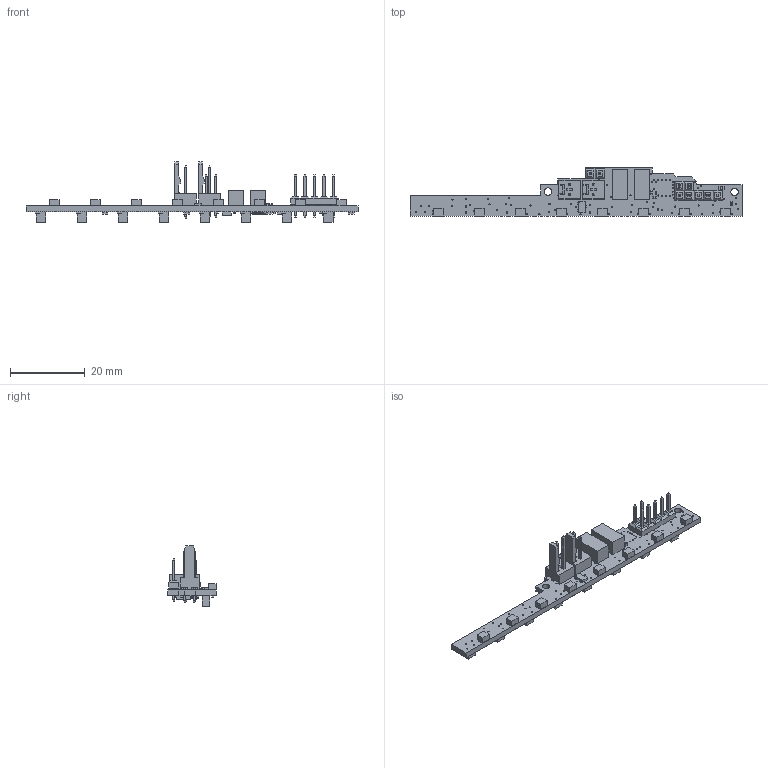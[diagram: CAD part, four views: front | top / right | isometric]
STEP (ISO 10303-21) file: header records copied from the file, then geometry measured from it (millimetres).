
FILE_DESCRIPTION(/* description */ (''),/* implementation_level */ '2;1');
FILE_NAME(/* name */ 'C:/Users/priba/Downloads/mrm-ref-can8.step',/* time_stamp */ '2020-09-13T10:41:57+02:00',/* author */ (''),/* organization */ (''),/* preprocessor_version */ 'ST-DEVELOPER v18.1',/* originating_system */ 'Autodesk Translation Framework v9.3.0.1241',/* authorisation */ '');
FILE_SCHEMA (('AUTOMOTIVE_DESIGN { 1 0 10303 214 3 1 1 }'));
Length unit declared in the file: millimetre
Products named in the file (17): mrm-ref-can8; PCB Component; Board; TOSHIBA_SSM3J338R,LFSOT23; ON_SEMICONDUCTOR_QSB363ZR; 1.5kOhm; JST_BM04B-GHK-TBT; CONN_02; 1.5kOhm/0603; 26pF/5V; MICROCHIP_ATA6561-GBQW-N; MOLEX_22-27-2021; CONN_05; STM32F042G6U6; EPSON_TSX-3225; SML-P11MTT86R; KINGBRIGHT_AM2520F3C03-P22
Assembly tree (55 placements, depth 3):
  mrm-ref-can8
    PCB Component
      Board
      TOSHIBA_SSM3J338R,LFSOT23
      ON_SEMICONDUCTOR_QSB363ZR  x8
      1.5kOhm  x12
      JST_BM04B-GHK-TBT  x2
      CONN_02  x2
      1.5kOhm/0603  x5
      26pF/5V  x8
      MICROCHIP_ATA6561-GBQW-N
      MOLEX_22-27-2021  x2
      CONN_05
      STM32F042G6U6
      EPSON_TSX-3225
      SML-P11MTT86R
      KINGBRIGHT_AM2520F3C03-P22  x8
Bounding box: 89 x 13 x 16.22 mm (x, y, z)
Volume: 2023.8 mm3; surface area: 4138.4 mm2
Topology: 81 solids, 81 shells, 2796 faces, 7787 edges, 5152 vertices
Faces by surface type: plane 1666, cylinder 818, sphere 280, bspline 32
Full cylindrical faces by diameter (mm): 0.3 x118, 1.016 x9, 1.05 x4, 2 x2, 2.15 x8
Entity records: 38297 total; most frequent: CARTESIAN_POINT 8280, ORIENTED_EDGE 5874, DIRECTION 5602, EDGE_CURVE 2937, LINE 2094, VECTOR 2094, VERTEX_POINT 1891, AXIS2_PLACEMENT_3D 1754
